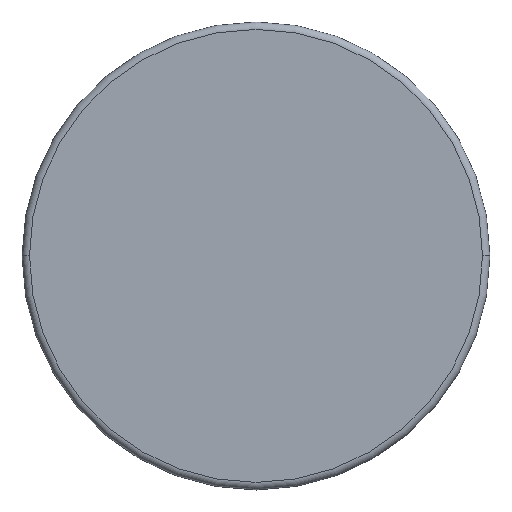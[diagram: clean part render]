
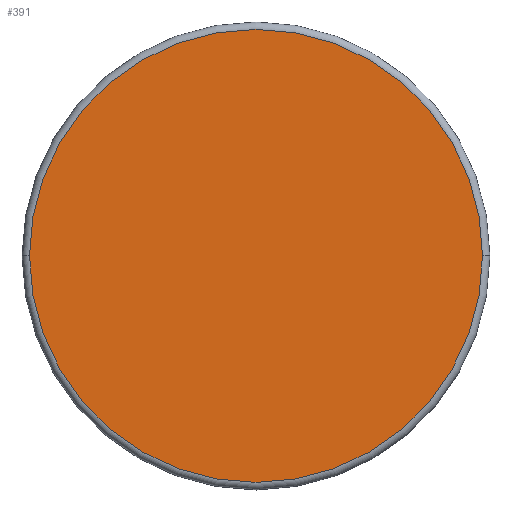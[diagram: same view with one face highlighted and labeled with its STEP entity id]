
A CAD part, top view. The second image highlights one B-rep face of the part: STEP entity #391.
In plain terms, the highlighted planar face has unit normal (0, 0, 1).
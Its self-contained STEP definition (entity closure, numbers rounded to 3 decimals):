
#1=CARTESIAN_POINT('',(0.,0.,2.898));
#2=DIRECTION('',(0.,0.,-1.));
#3=DIRECTION('',(1.,0.,0.));
#4=AXIS2_PLACEMENT_3D('',#1,#2,#3);
#6=CARTESIAN_POINT('',(0.,0.,2.898));
#7=DIRECTION('',(0.,0.,-1.));
#8=DIRECTION('',(-1.,0.,0.));
#9=AXIS2_PLACEMENT_3D('',#6,#7,#8);
#376=CARTESIAN_POINT('',(3.063,0.,2.898));
#377=CARTESIAN_POINT('',(-3.063,0.,2.898));
#378=VERTEX_POINT('',#376);
#379=VERTEX_POINT('',#377);
#380=CARTESIAN_POINT('',(0.,0.,2.898));
#381=DIRECTION('',(0.,0.,1.));
#382=DIRECTION('',(-1.,0.,0.));
#383=AXIS2_PLACEMENT_3D('',#380,#381,#382);
#384=PLANE('',#383);
#386=ORIENTED_EDGE('',*,*,#385,.T.);
#388=ORIENTED_EDGE('',*,*,#387,.T.);
#389=EDGE_LOOP('',(#386,#388));
#390=FACE_OUTER_BOUND('',#389,.F.);
#391=ADVANCED_FACE('',(#390),#384,.T.);
#5=CIRCLE('',#4,3.063);
#10=CIRCLE('',#9,3.063);
#385=EDGE_CURVE('',#378,#379,#5,.T.);
#387=EDGE_CURVE('',#379,#378,#10,.T.);
